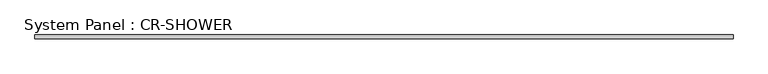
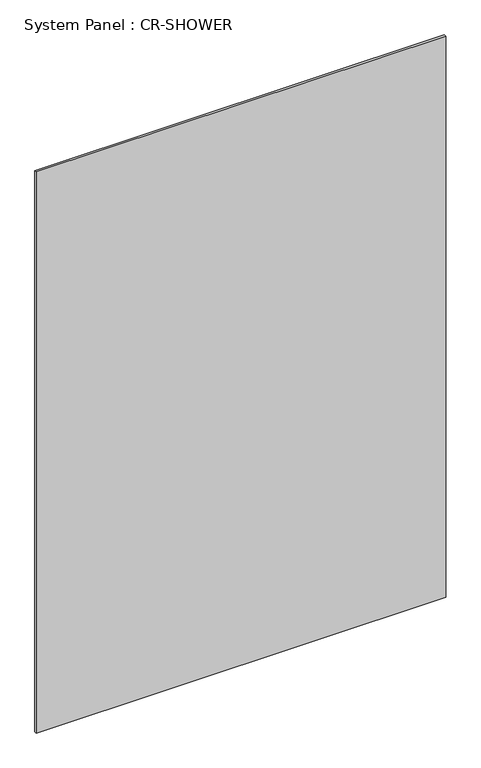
"""IFC4 building model written with IfcOpenShell, lengths in millimetres: plate geometry, System Panel : CR-SHOWER."""

from ifc_helpers import new_model, si_unit, origin, origin_with_axes, place, context, project, spatial, polyline, outline, extrude, source, transform, mapped, element, save


def system_panel_cr_shower_a24a3b2b(model_context):
    return source(origin(), model_context, "Body", "SweptSolid", [
        extrude(outline(polyline([(1156.025, -0.05), (-1156.025, -0.05), (-1156.025, 12.45), (1156.025, 12.45), (1156.025, -0.05)])), origin_with_axes(), (0.0, 0.0, 1.0), 3350.0),
    ])


if __name__ == "__main__":
    model = new_model("IFC4")
    model_context = context("Model", 3, world=origin())
    ifc_project = project(units=[si_unit("LENGTHUNIT", "METRE", prefix="MILLI")], contexts=[model_context])
    site = spatial("IfcSite", under=ifc_project)
    building = spatial("IfcBuilding", under=site)
    placement = place(None, origin())
    system_panel_cr_shower_shape = system_panel_cr_shower_a24a3b2b(model_context)
    element("IfcPlate", 1, ObjectType="System Panel : CR-SHOWER", at=placement, inside=building, context=model_context, shape_type="MappedRepresentation", body=[
        mapped(system_panel_cr_shower_shape, transform((0.0, 0.0, 0.0), x_axis=(1.0, 0.0, 0.0), y_axis=(0.0, 1.0, 0.0), z_axis=(0.0, 0.0, 1.0))),
    ])
    save(model, "model.ifc")
